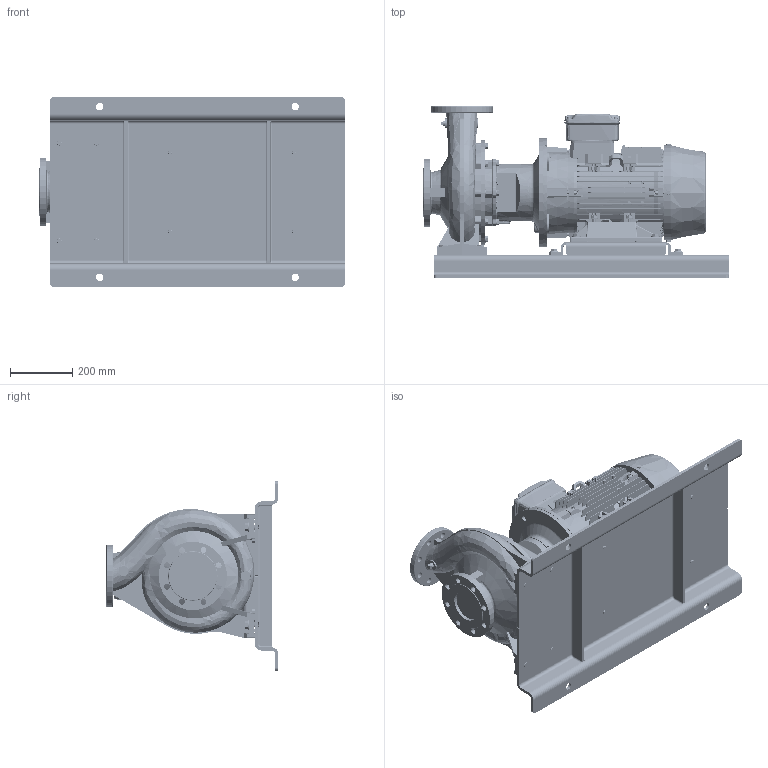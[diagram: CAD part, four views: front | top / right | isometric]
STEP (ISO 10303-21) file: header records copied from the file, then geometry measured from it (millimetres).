
FILE_DESCRIPTION (( 'STEP AP214' ), '1' );
FILE_NAME ('GSD4 80-250_11.0 & 15.0_(160ML)_W21_BP.STEP', '2026-05-08T06:42:13', ( '' ), ( '' ), 'SwSTEP 2.0', 'SolidWorks 2024', '' );
FILE_SCHEMA (( 'AUTOMOTIVE_DESIGN' ));
Length unit declared in the file: millimetre
Products named in the file (13): Parametric bolt_SFT-A303B; Parametric Flat Washer_M12; Parametric Flat Washer_M16; N7S3 GSDA-731 F1-1832944-00; Parametric bolt_SFT-A297B; Parametric bolt and washer_SFT-A297B; 160M_L_ALIE3_W21T_B35; CGS11-5252; GSD4 80-250_11.0 & 15.0_(160ML)_W21_BP; 80-250-160M_L_ﾃﾞﾌｫﾙﾄ; Parametric bolt and washer_SFT-A303B; Parametric bolt_SFT-A353B; Parametric bolt and washer_SFT-A353B
Assembly tree (22 placements, depth 3):
  GSD4 80-250_11.0 & 15.0_(160ML)_W21_BP
    80-250-160M_L_ﾃﾞﾌｫﾙﾄ
    N7S3 GSDA-731 F1-1832944-00
    CGS11-5252
    Parametric bolt and washer_SFT-A353B  x4
      Parametric bolt_SFT-A353B
      Parametric Flat Washer_M16
    Parametric bolt and washer_SFT-A297B  x4
      Parametric bolt_SFT-A297B
      Parametric Flat Washer_M12
    Parametric bolt and washer_SFT-A303B  x4
      Parametric bolt_SFT-A303B
      Parametric Flat Washer_M12
    160M_L_ALIE3_W21T_B35
Bounding box: 985 x 555 x 610 mm (x, y, z)
Volume: 60675451.2 mm3; surface area: 4886610.2 mm2
Topology: 64 solids, 70 shells, 6621 faces, 17101 edges, 11050 vertices
Faces by surface type: plane 3897, cylinder 1379, cone 616, bspline 447, torus 266, sphere 16
Entity records: 244993 total; most frequent: CARTESIAN_POINT 102580, ORIENTED_EDGE 31178, DIRECTION 26481, EDGE_CURVE 15589, VERTEX_POINT 10081, LINE 9823, VECTOR 9823, AXIS2_PLACEMENT_3D 8329
